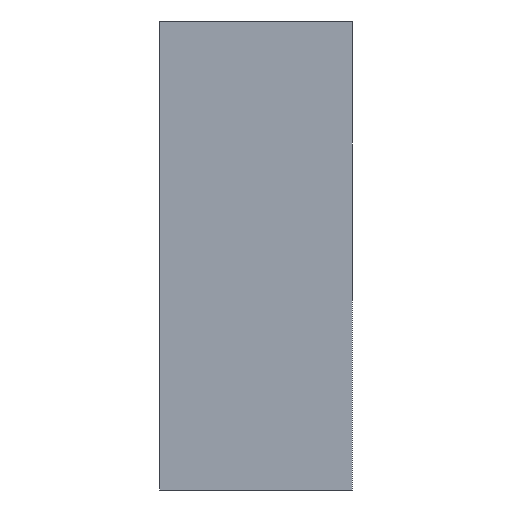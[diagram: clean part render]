
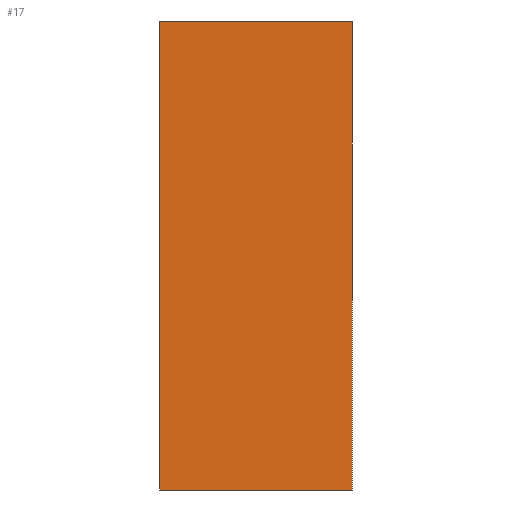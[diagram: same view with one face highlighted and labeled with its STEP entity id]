
A CAD part, left-side view. The second image highlights one B-rep face of the part: STEP entity #17.
In plain terms, the highlighted planar face has unit normal (-1, 0, 0).
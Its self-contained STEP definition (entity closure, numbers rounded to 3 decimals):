
#17 = ADVANCED_FACE('',(#18),#32,.F.);
#18 = FACE_BOUND('',#19,.F.);
#19 = EDGE_LOOP('',(#20,#55,#83,#111));
#20 = ORIENTED_EDGE('',*,*,#21,.F.);
#21 = EDGE_CURVE('',#22,#24,#26,.T.);
#22 = VERTEX_POINT('',#23);
#23 = CARTESIAN_POINT('',(-11.,-8.,18.8));
#24 = VERTEX_POINT('',#25);
#25 = CARTESIAN_POINT('',(-11.,-0.25,18.8));
#26 = SURFACE_CURVE('',#27,(#31,#43),.PCURVE_S1.);
#27 = LINE('',#28,#29);
#28 = CARTESIAN_POINT('',(-11.,-8.,18.8));
#29 = VECTOR('',#30,1.);
#30 = DIRECTION('',(-0.,1.,0.));
#31 = PCURVE('',#32,#37);
#32 = PLANE('',#33);
#33 = AXIS2_PLACEMENT_3D('',#34,#35,#36);
#34 = CARTESIAN_POINT('',(-11.,-8.,0.));
#35 = DIRECTION('',(1.,0.,-0.));
#36 = DIRECTION('',(0.,0.,1.));
#37 = DEFINITIONAL_REPRESENTATION('',(#38),#42);
#38 = LINE('',#39,#40);
#39 = CARTESIAN_POINT('',(18.8,0.));
#40 = VECTOR('',#41,1.);
#41 = DIRECTION('',(0.,-1.));
#42 = ( GEOMETRIC_REPRESENTATION_CONTEXT(2) 
PARAMETRIC_REPRESENTATION_CONTEXT() REPRESENTATION_CONTEXT('2D SPACE',''
  ) );
#43 = PCURVE('',#44,#49);
#44 = PLANE('',#45);
#45 = AXIS2_PLACEMENT_3D('',#46,#47,#48);
#46 = CARTESIAN_POINT('',(-11.,-8.,18.8));
#47 = DIRECTION('',(0.,0.,1.));
#48 = DIRECTION('',(1.,0.,-0.));
#49 = DEFINITIONAL_REPRESENTATION('',(#50),#54);
#50 = LINE('',#51,#52);
#51 = CARTESIAN_POINT('',(0.,0.));
#52 = VECTOR('',#53,1.);
#53 = DIRECTION('',(0.,1.));
#54 = ( GEOMETRIC_REPRESENTATION_CONTEXT(2) 
PARAMETRIC_REPRESENTATION_CONTEXT() REPRESENTATION_CONTEXT('2D SPACE',''
  ) );
#55 = ORIENTED_EDGE('',*,*,#56,.F.);
#56 = EDGE_CURVE('',#57,#22,#59,.T.);
#57 = VERTEX_POINT('',#58);
#58 = CARTESIAN_POINT('',(-11.,-8.,0.));
#59 = SURFACE_CURVE('',#60,(#64,#71),.PCURVE_S1.);
#60 = LINE('',#61,#62);
#61 = CARTESIAN_POINT('',(-11.,-8.,0.));
#62 = VECTOR('',#63,1.);
#63 = DIRECTION('',(0.,0.,1.));
#64 = PCURVE('',#32,#65);
#65 = DEFINITIONAL_REPRESENTATION('',(#66),#70);
#66 = LINE('',#67,#68);
#67 = CARTESIAN_POINT('',(0.,0.));
#68 = VECTOR('',#69,1.);
#69 = DIRECTION('',(1.,0.));
#70 = ( GEOMETRIC_REPRESENTATION_CONTEXT(2) 
PARAMETRIC_REPRESENTATION_CONTEXT() REPRESENTATION_CONTEXT('2D SPACE',''
  ) );
#71 = PCURVE('',#72,#77);
#72 = PLANE('',#73);
#73 = AXIS2_PLACEMENT_3D('',#74,#75,#76);
#74 = CARTESIAN_POINT('',(-11.,-8.,0.));
#75 = DIRECTION('',(-0.,1.,0.));
#76 = DIRECTION('',(0.,0.,1.));
#77 = DEFINITIONAL_REPRESENTATION('',(#78),#82);
#78 = LINE('',#79,#80);
#79 = CARTESIAN_POINT('',(0.,0.));
#80 = VECTOR('',#81,1.);
#81 = DIRECTION('',(1.,0.));
#82 = ( GEOMETRIC_REPRESENTATION_CONTEXT(2) 
PARAMETRIC_REPRESENTATION_CONTEXT() REPRESENTATION_CONTEXT('2D SPACE',''
  ) );
#83 = ORIENTED_EDGE('',*,*,#84,.T.);
#84 = EDGE_CURVE('',#57,#85,#87,.T.);
#85 = VERTEX_POINT('',#86);
#86 = CARTESIAN_POINT('',(-11.,-0.25,0.));
#87 = SURFACE_CURVE('',#88,(#92,#99),.PCURVE_S1.);
#88 = LINE('',#89,#90);
#89 = CARTESIAN_POINT('',(-11.,-8.,0.));
#90 = VECTOR('',#91,1.);
#91 = DIRECTION('',(-0.,1.,0.));
#92 = PCURVE('',#32,#93);
#93 = DEFINITIONAL_REPRESENTATION('',(#94),#98);
#94 = LINE('',#95,#96);
#95 = CARTESIAN_POINT('',(0.,0.));
#96 = VECTOR('',#97,1.);
#97 = DIRECTION('',(0.,-1.));
#98 = ( GEOMETRIC_REPRESENTATION_CONTEXT(2) 
PARAMETRIC_REPRESENTATION_CONTEXT() REPRESENTATION_CONTEXT('2D SPACE',''
  ) );
#99 = PCURVE('',#100,#105);
#100 = PLANE('',#101);
#101 = AXIS2_PLACEMENT_3D('',#102,#103,#104);
#102 = CARTESIAN_POINT('',(-11.,-8.,0.));
#103 = DIRECTION('',(0.,0.,1.));
#104 = DIRECTION('',(1.,0.,-0.));
#105 = DEFINITIONAL_REPRESENTATION('',(#106),#110);
#106 = LINE('',#107,#108);
#107 = CARTESIAN_POINT('',(0.,0.));
#108 = VECTOR('',#109,1.);
#109 = DIRECTION('',(0.,1.));
#110 = ( GEOMETRIC_REPRESENTATION_CONTEXT(2) 
PARAMETRIC_REPRESENTATION_CONTEXT() REPRESENTATION_CONTEXT('2D SPACE',''
  ) );
#111 = ORIENTED_EDGE('',*,*,#112,.T.);
#112 = EDGE_CURVE('',#85,#24,#113,.T.);
#113 = SURFACE_CURVE('',#114,(#118,#124),.PCURVE_S1.);
#114 = LINE('',#115,#116);
#115 = CARTESIAN_POINT('',(-11.,-0.25,-0.3));
#116 = VECTOR('',#117,1.);
#117 = DIRECTION('',(0.,0.,1.));
#118 = PCURVE('',#32,#119);
#119 = DEFINITIONAL_REPRESENTATION('',(#120),#123);
#120 = B_SPLINE_CURVE_WITH_KNOTS('',1,(#121,#122),.UNSPECIFIED.,.F.,.F.,
  (2,2),(0.3,19.1),.PIECEWISE_BEZIER_KNOTS.);
#121 = CARTESIAN_POINT('',(0.,-7.75));
#122 = CARTESIAN_POINT('',(18.8,-7.75));
#123 = ( GEOMETRIC_REPRESENTATION_CONTEXT(2) 
PARAMETRIC_REPRESENTATION_CONTEXT() REPRESENTATION_CONTEXT('2D SPACE',''
  ) );
#124 = PCURVE('',#125,#130);
#125 = PLANE('',#126);
#126 = AXIS2_PLACEMENT_3D('',#127,#128,#129);
#127 = CARTESIAN_POINT('',(-12.,-0.25,-0.6));
#128 = DIRECTION('',(-0.,1.,0.));
#129 = DIRECTION('',(0.,0.,1.));
#130 = DEFINITIONAL_REPRESENTATION('',(#131),#134);
#131 = B_SPLINE_CURVE_WITH_KNOTS('',1,(#132,#133),.UNSPECIFIED.,.F.,.F.,
  (2,2),(0.3,19.1),.PIECEWISE_BEZIER_KNOTS.);
#132 = CARTESIAN_POINT('',(0.6,1.));
#133 = CARTESIAN_POINT('',(19.4,1.));
#134 = ( GEOMETRIC_REPRESENTATION_CONTEXT(2) 
PARAMETRIC_REPRESENTATION_CONTEXT() REPRESENTATION_CONTEXT('2D SPACE',''
  ) );
